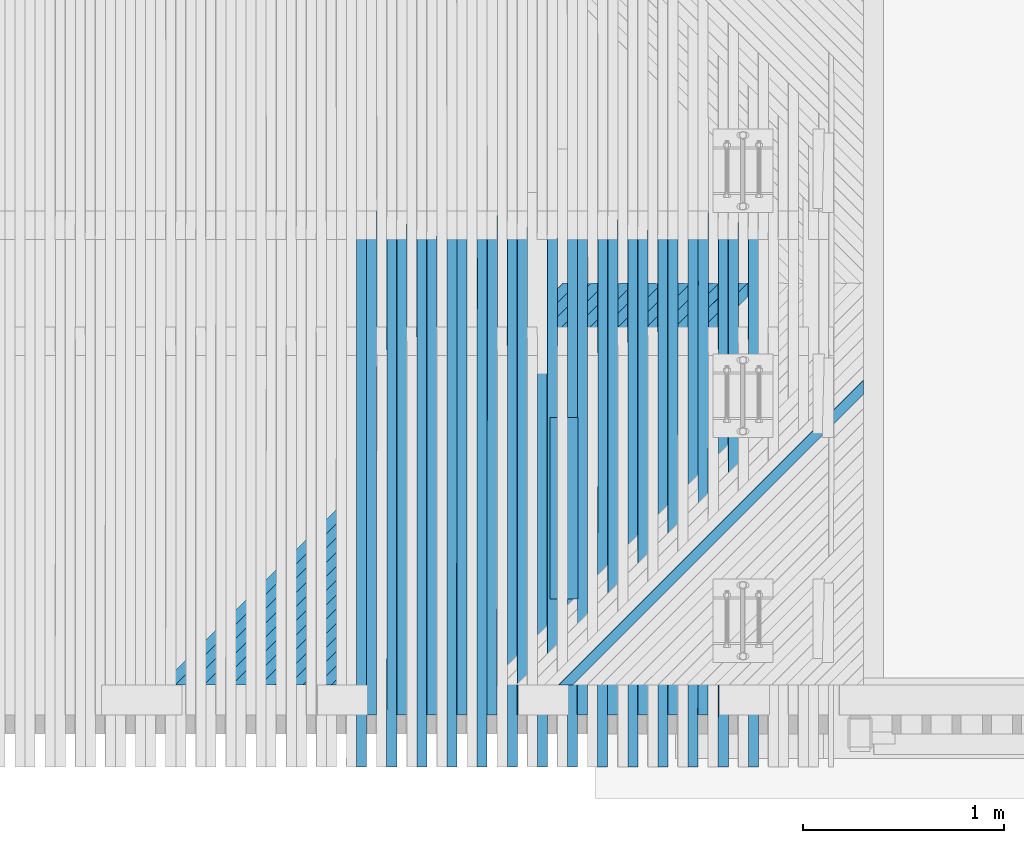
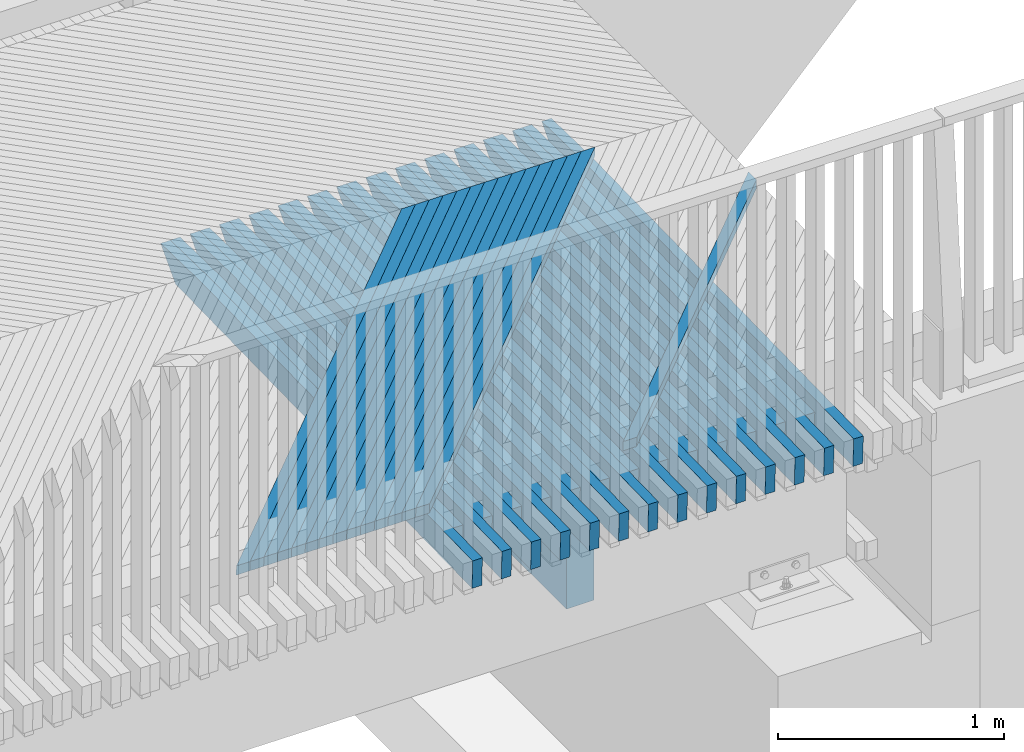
# One storey, part 38 of 47: 43 beams.
"""IFC2X3 building model written with IfcOpenShell, lengths in millimetres."""

from ifc_helpers import new_model, si_unit, frame, origin_with_axes, place, context, subcontext, project, spatial, faceted_brep, material, type_object, element, save


model = new_model("IFC2X3")

# Units and contexts
model_context = context("Model", 3, precision=1e-05, world=origin_with_axes())
body_context = subcontext(model_context, "Body", "Model", "MODEL_VIEW")
ifc_project = project(units=[si_unit("LENGTHUNIT", "METRE", prefix="MILLI"), si_unit("AREAUNIT", "SQUARE_METRE"), si_unit("VOLUMEUNIT", "CUBIC_METRE"), si_unit("MASSUNIT", "GRAM", prefix="KILO"), si_unit("TIMEUNIT", "SECOND"), si_unit("PLANEANGLEUNIT", "RADIAN"), si_unit("SOLIDANGLEUNIT", "STERADIAN"), si_unit("THERMODYNAMICTEMPERATUREUNIT", "DEGREE_CELSIUS"), si_unit("LUMINOUSINTENSITYUNIT", "LUMEN")], contexts=[model_context])

# Site, building, storey
site_placement = place(None, origin_with_axes())
site = spatial("IfcSite", under=ifc_project, at=site_placement, Name="Undefined", CompositionType="ELEMENT")
building_placement = place(site_placement, origin_with_axes())
building = spatial("IfcBuilding", under=site, at=building_placement, Name="Undefined", CompositionType="ELEMENT")
storey_placement = place(building_placement, origin_with_axes())
storey = spatial("IfcBuildingStorey", under=building, at=storey_placement, Name="Undefined", CompositionType="ELEMENT", Elevation=0.0)

# Beams
ifc_material = material(Name="TIMBER/Timber_Undefined")
beam_type_1 = type_object("IfcBeamType", Name="150*50", PredefinedType="NOTDEFINED")
beam_1_placement = place(storey_placement, frame((16051.1745116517, 59958.5561921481, 3034.14462053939), z_axis=(0.0133748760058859, -0.0199960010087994, 0.999710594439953), x_axis=(0.000267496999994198, 0.99980005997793, 0.0199942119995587)))
element("IfcBeam", 1, at=beam_1_placement, inside=storey, type_object=beam_type_1, material=ifc_material, Name="BEAM", ObjectType="150*50", context=body_context, shape_type="Brep", body=[
    faceted_brep([(6.18456397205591e-09, -24.9999999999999, -75.0000000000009), (-6.1918399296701e-09, -24.9999999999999, 74.9999999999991), (-6.19911588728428e-09, 25.0, 75.0), (6.18456397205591e-09, 24.9999999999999, -75.0), (2633.00494983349, 25.0000000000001, -75.0000000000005), (2633.00495050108, -24.9999999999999, -75.0000000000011), (2768.59248707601, -25.0, 60.5875366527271), (2408.42499905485, -25.0, 74.9999999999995), (2408.42501428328, 25.0000000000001, 74.9999999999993), (2768.5924870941, 25.0, 60.5875375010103)], [[[0, 1, 2, 3]], [[0, 3, 4, 5]], [[1, 0, 5, 6, 7]], [[2, 1, 7, 8]], [[4, 3, 2, 8, 9]], [[5, 4, 9, 6]], [[8, 7, 6, 9]]]),
])
beam_2_placement = place(storey_placement, frame((15951.1272743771, 60216.5046076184, 3040.6339626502), z_axis=(0.013208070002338, -0.0199960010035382, 0.999712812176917), x_axis=(0.000263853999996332, 0.999800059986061, 0.0199942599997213)))
element("IfcBeam", 2, at=beam_2_placement, inside=storey, type_object=beam_type_1, material=ifc_material, Name="BEAM", ObjectType="150*50", context=body_context, shape_type="Brep", body=[
    faceted_brep([(6.18456397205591e-09, -24.9999999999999, -75.0000000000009), (-6.1918399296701e-09, -24.9999999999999, 74.9999999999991), (-6.19911588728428e-09, 25.0, 75.0), (6.18456397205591e-09, 24.9999999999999, -75.0), (2375.00494220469, 24.9999999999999, -75.0000000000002), (2375.00494218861, -25.0, -75.0), (2510.59248711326, -25.0, 60.5875455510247), (2150.42518973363, -25.0, 75.0000000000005), (2150.42518840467, 25.0, 74.9999999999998), (2510.59248707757, 25.0, 60.5875454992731)], [[[0, 1, 2, 3]], [[0, 3, 4, 5]], [[1, 0, 5, 6, 7]], [[2, 1, 7, 8]], [[4, 3, 2, 8, 9]], [[5, 4, 9, 6]], [[8, 7, 6, 9]]]),
])
beam_3_placement = place(storey_placement, frame((15901.1589184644, 59958.5561921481, 3036.13254464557), z_axis=(0.0131257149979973, -0.0199960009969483, 0.999713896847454), x_axis=(0.000262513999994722, 0.999800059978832, 0.0199942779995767)))
element("IfcBeam", 3, at=beam_3_placement, inside=storey, type_object=beam_type_1, material=ifc_material, Name="BEAM", ObjectType="150*50", context=body_context, shape_type="Brep", body=[
    faceted_brep([(6.18456397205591e-09, -24.9999999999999, -75.0000000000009), (-6.1918399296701e-09, -24.9999999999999, 74.9999999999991), (-6.19911588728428e-09, 25.0, 75.0), (6.18456397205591e-09, 24.9999999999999, -75.0), (2633.00494983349, 25.0000000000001, -75.0000000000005), (2633.00495050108, -24.9999999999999, -75.0000000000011), (2768.59248707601, -25.0, 60.5875366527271), (2408.42499905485, -25.0, 74.9999999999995), (2408.42501428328, 25.0000000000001, 74.9999999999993), (2768.5924870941, 25.0, 60.5875375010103)], [[[0, 1, 2, 3]], [[0, 3, 4, 5]], [[1, 0, 5, 6, 7]], [[2, 1, 7, 8]], [[4, 3, 2, 8, 9]], [[5, 4, 9, 6]], [[8, 7, 6, 9]]]),
])
beam_4_placement = place(storey_placement, frame((15801.1100669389, 60216.5046076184, 3042.59695148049), z_axis=(0.0129589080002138, -0.0199960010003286, 0.999716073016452), x_axis=(0.000258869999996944, 0.999800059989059, 0.0199943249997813)))
element("IfcBeam", 4, at=beam_4_placement, inside=storey, type_object=beam_type_1, material=ifc_material, Name="BEAM", ObjectType="150*50", context=body_context, shape_type="Brep", body=[
    faceted_brep([(6.18456397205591e-09, -24.9999999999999, -75.0000000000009), (-6.1918399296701e-09, -24.9999999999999, 74.9999999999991), (-6.19911588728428e-09, 25.0, 75.0), (6.18456397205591e-09, 24.9999999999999, -75.0), (2375.00494220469, 24.9999999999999, -75.0000000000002), (2375.00494218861, -25.0, -75.0), (2510.59248711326, -25.0, 60.5875455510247), (2150.42518973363, -25.0, 75.0000000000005), (2150.42518840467, 25.0, 74.9999999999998), (2510.59248707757, 25.0, 60.5875454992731)], [[[0, 1, 2, 3]], [[0, 3, 4, 5]], [[1, 0, 5, 6, 7]], [[2, 1, 7, 8]], [[4, 3, 2, 8, 9]], [[5, 4, 9, 6]], [[8, 7, 6, 9]]]),
])
beam_5_placement = place(storey_placement, frame((15751.1428344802, 59958.5561921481, 3038.08307985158), z_axis=(0.012876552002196, -0.0199960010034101, 0.999717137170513), x_axis=(0.000257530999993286, 0.999800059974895, 0.0199943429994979)))
element("IfcBeam", 5, at=beam_5_placement, inside=storey, type_object=beam_type_1, material=ifc_material, Name="BEAM", ObjectType="150*50", context=body_context, shape_type="Brep", body=[
    faceted_brep([(6.18456397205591e-09, -24.9999999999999, -75.0000000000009), (-6.1918399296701e-09, -24.9999999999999, 74.9999999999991), (-6.19911588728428e-09, 25.0, 75.0), (6.18456397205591e-09, 24.9999999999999, -75.0), (2633.00494983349, 25.0000000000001, -75.0000000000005), (2633.00495050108, -24.9999999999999, -75.0000000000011), (2768.59248707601, -25.0, 60.5875366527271), (2408.42499905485, -25.0, 74.9999999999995), (2408.42501428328, 25.0000000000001, 74.9999999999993), (2768.5924870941, 25.0, 60.5875375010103)], [[[0, 1, 2, 3]], [[0, 3, 4, 5]], [[1, 0, 5, 6, 7]], [[2, 1, 7, 8]], [[4, 3, 2, 8, 9]], [[5, 4, 9, 6]], [[8, 7, 6, 9]]]),
])
beam_6_placement = place(storey_placement, frame((15651.0923749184, 60216.5046076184, 3044.52255100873), z_axis=(0.012709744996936, -0.0199960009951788, 0.999719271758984), x_axis=(0.000253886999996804, 0.999800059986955, 0.0199943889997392)))
element("IfcBeam", 6, at=beam_6_placement, inside=storey, type_object=beam_type_1, material=ifc_material, Name="BEAM", ObjectType="150*50", context=body_context, shape_type="Brep", body=[
    faceted_brep([(6.18456397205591e-09, -24.9999999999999, -75.0000000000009), (-6.1918399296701e-09, -24.9999999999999, 74.9999999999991), (-6.19911588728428e-09, 25.0, 75.0), (6.18456397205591e-09, 24.9999999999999, -75.0), (2375.00494220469, 24.9999999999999, -75.0000000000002), (2375.00494218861, -25.0, -75.0), (2510.59248711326, -25.0, 60.5875455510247), (2150.42518973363, -25.0, 75.0000000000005), (2150.42518840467, 25.0, 74.9999999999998), (2510.59248707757, 25.0, 60.5875454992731)], [[[0, 1, 2, 3]], [[0, 3, 4, 5]], [[1, 0, 5, 6, 7]], [[2, 1, 7, 8]], [[4, 3, 2, 8, 9]], [[5, 4, 9, 6]], [[8, 7, 6, 9]]]),
])
beam_7_placement = place(storey_placement, frame((15601.1262690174, 59958.5561921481, 3039.99622603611), z_axis=(0.012627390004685, -0.019996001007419, 0.999720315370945), x_axis=(0.000252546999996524, 0.999800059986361, 0.0199944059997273)))
element("IfcBeam", 7, at=beam_7_placement, inside=storey, type_object=beam_type_1, material=ifc_material, Name="BEAM", ObjectType="150*50", context=body_context, shape_type="Brep", body=[
    faceted_brep([(6.18456397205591e-09, -24.9999999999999, -75.0000000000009), (-6.1918399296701e-09, -24.9999999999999, 74.9999999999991), (-6.19911588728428e-09, 25.0, 75.0), (6.18456397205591e-09, 24.9999999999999, -75.0), (2633.00494983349, 25.0000000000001, -75.0000000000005), (2633.00495050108, -24.9999999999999, -75.0000000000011), (2768.59248707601, -25.0, 60.5875366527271), (2408.42499905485, -25.0, 74.9999999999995), (2408.42501428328, 25.0000000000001, 74.9999999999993), (2768.5924870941, 25.0, 60.5875375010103)], [[[0, 1, 2, 3]], [[0, 3, 4, 5]], [[1, 0, 5, 6, 7]], [[2, 1, 7, 8]], [[4, 3, 2, 8, 9]], [[5, 4, 9, 6]], [[8, 7, 6, 9]]]),
])
beam_8_placement = place(storey_placement, frame((15501.0742076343, 60216.5046076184, 3046.41076111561), z_axis=(0.0124605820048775, -0.0199960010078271, 0.999722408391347), x_axis=(0.000248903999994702, 0.999800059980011, 0.0199944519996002)))
element("IfcBeam", 8, at=beam_8_placement, inside=storey, type_object=beam_type_1, material=ifc_material, Name="BEAM", ObjectType="150*50", context=body_context, shape_type="Brep", body=[
    faceted_brep([(6.18456397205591e-09, -24.9999999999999, -75.0000000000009), (-6.1918399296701e-09, -24.9999999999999, 74.9999999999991), (-6.19911588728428e-09, 25.0, 75.0), (6.18456397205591e-09, 24.9999999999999, -75.0), (2375.00494220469, 24.9999999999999, -75.0000000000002), (2375.00494218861, -25.0, -75.0), (2510.59248711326, -25.0, 60.5875455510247), (2150.42518973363, -25.0, 75.0000000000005), (2150.42518840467, 25.0, 74.9999999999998), (2510.59248707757, 25.0, 60.5875454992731)], [[[0, 1, 2, 3]], [[0, 3, 4, 5]], [[1, 0, 5, 6, 7]], [[2, 1, 7, 8]], [[4, 3, 2, 8, 9]], [[5, 4, 9, 6]], [[8, 7, 6, 9]]]),
])
beam_9_placement = place(storey_placement, frame((15451.1092313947, 59958.5561921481, 3041.87198308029), z_axis=(0.0123782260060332, -0.0199960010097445, 0.99972343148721), x_axis=(0.000247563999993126, 0.999800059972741, 0.0199944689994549)))
element("IfcBeam", 9, at=beam_9_placement, inside=storey, type_object=beam_type_1, material=ifc_material, Name="BEAM", ObjectType="150*50", context=body_context, shape_type="Brep", body=[
    faceted_brep([(6.18456397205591e-09, -24.9999999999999, -75.0000000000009), (-6.1918399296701e-09, -24.9999999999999, 74.9999999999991), (-6.19911588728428e-09, 25.0, 75.0), (6.18456397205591e-09, 24.9999999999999, -75.0), (2633.00494983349, 25.0000000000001, -75.0000000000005), (2633.00495050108, -24.9999999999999, -75.0000000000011), (2768.59248707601, -25.0, 60.5875366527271), (2408.42499905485, -25.0, 74.9999999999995), (2408.42501428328, 25.0000000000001, 74.9999999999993), (2768.5924870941, 25.0, 60.5875375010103)], [[[0, 1, 2, 3]], [[0, 3, 4, 5]], [[1, 0, 5, 6, 7]], [[2, 1, 7, 8]], [[4, 3, 2, 8, 9]], [[5, 4, 9, 6]], [[8, 7, 6, 9]]]),
])
beam_10_placement = place(storey_placement, frame((15351.0555744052, 60216.5046076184, 3048.26158168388), z_axis=(0.0122114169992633, -0.0199960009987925, 0.999725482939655), x_axis=(0.000243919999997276, 0.999800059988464, 0.0199945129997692)))
element("IfcBeam", 10, at=beam_10_placement, inside=storey, type_object=beam_type_1, material=ifc_material, Name="BEAM", ObjectType="150*50", context=body_context, shape_type="Brep", body=[
    faceted_brep([(6.18456397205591e-09, -24.9999999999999, -75.0000000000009), (-6.1918399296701e-09, -24.9999999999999, 74.9999999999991), (-6.19911588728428e-09, 25.0, 75.0), (6.18456397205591e-09, 24.9999999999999, -75.0), (2375.00494220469, 24.9999999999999, -75.0000000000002), (2375.00494218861, -25.0, -75.0), (2510.59248711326, -25.0, 60.5875455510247), (2150.42518973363, -25.0, 75.0000000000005), (2150.42518840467, 25.0, 74.9999999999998), (2510.59248707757, 25.0, 60.5875454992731)], [[[0, 1, 2, 3]], [[0, 3, 4, 5]], [[1, 0, 5, 6, 7]], [[2, 1, 7, 8]], [[4, 3, 2, 8, 9]], [[5, 4, 9, 6]], [[8, 7, 6, 9]]]),
])
beam_11_placement = place(storey_placement, frame((15301.0917309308, 59958.5561921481, 3043.71035086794), z_axis=(0.0121290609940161, -0.0199960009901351, 0.999726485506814), x_axis=(0.000242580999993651, 0.999800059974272, 0.0199945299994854)))
element("IfcBeam", 11, at=beam_11_placement, inside=storey, type_object=beam_type_1, material=ifc_material, Name="BEAM", ObjectType="150*50", context=body_context, shape_type="Brep", body=[
    faceted_brep([(6.18456397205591e-09, -24.9999999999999, -75.0000000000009), (-6.1918399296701e-09, -24.9999999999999, 74.9999999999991), (-6.19911588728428e-09, 25.0, 75.0), (6.18456397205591e-09, 24.9999999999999, -75.0), (2633.00494983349, 25.0000000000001, -75.0000000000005), (2633.00495050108, -24.9999999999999, -75.0000000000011), (2768.59248707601, -25.0, 60.5875366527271), (2408.42499905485, -25.0, 74.9999999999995), (2408.42501428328, 25.0000000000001, 74.9999999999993), (2768.5924870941, 25.0, 60.5875375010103)], [[[0, 1, 2, 3]], [[0, 3, 4, 5]], [[1, 0, 5, 6, 7]], [[2, 1, 7, 8]], [[4, 3, 2, 8, 9]], [[5, 4, 9, 6]], [[8, 7, 6, 9]]]),
])
beam_12_placement = place(storey_placement, frame((15201.0364845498, 60216.5046076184, 3050.0750125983), z_axis=(0.0119622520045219, -0.0199960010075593, 0.999728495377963), x_axis=(0.000238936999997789, 0.999800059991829, 0.0199945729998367)))
element("IfcBeam", 12, at=beam_12_placement, inside=storey, type_object=beam_type_1, material=ifc_material, Name="BEAM", ObjectType="150*50", context=body_context, shape_type="Brep", body=[
    faceted_brep([(6.18456397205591e-09, -24.9999999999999, -75.0000000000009), (-6.1918399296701e-09, -24.9999999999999, 74.9999999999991), (-6.19911588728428e-09, 25.0, 75.0), (6.18456397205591e-09, 24.9999999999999, -75.0), (2375.00494220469, 24.9999999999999, -75.0000000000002), (2375.00494218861, -25.0, -75.0), (2510.59248711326, -25.0, 60.5875455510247), (2150.42518973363, -25.0, 75.0000000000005), (2150.42518840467, 25.0, 74.9999999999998), (2510.59248707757, 25.0, 60.5875454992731)], [[[0, 1, 2, 3]], [[0, 3, 4, 5]], [[1, 0, 5, 6, 7]], [[2, 1, 7, 8]], [[4, 3, 2, 8, 9]], [[5, 4, 9, 6]], [[8, 7, 6, 9]]]),
])
beam_13_placement = place(storey_placement, frame((15151.0737769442, 59958.5561921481, 3045.51132928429), z_axis=(0.0118798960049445, -0.0199960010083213, 0.999729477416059), x_axis=(0.000237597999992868, 0.999800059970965, 0.0199945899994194)))
element("IfcBeam", 13, at=beam_13_placement, inside=storey, type_object=beam_type_1, material=ifc_material, Name="BEAM", ObjectType="150*50", context=body_context, shape_type="Brep", body=[
    faceted_brep([(6.18456397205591e-09, -24.9999999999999, -75.0000000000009), (-6.1918399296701e-09, -24.9999999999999, 74.9999999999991), (-6.19911588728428e-09, 25.0, 75.0), (6.18456397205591e-09, 24.9999999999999, -75.0), (2633.00494983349, 25.0000000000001, -75.0000000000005), (2633.00495050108, -24.9999999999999, -75.0000000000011), (2768.59248707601, -25.0, 60.5875366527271), (2408.42499905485, -25.0, 74.9999999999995), (2408.42501428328, 25.0000000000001, 74.9999999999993), (2768.5924870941, 25.0, 60.5875375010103)], [[[0, 1, 2, 3]], [[0, 3, 4, 5]], [[1, 0, 5, 6, 7]], [[2, 1, 7, 8]], [[4, 3, 2, 8, 9]], [[5, 4, 9, 6]], [[8, 7, 6, 9]]]),
])
beam_14_placement = place(storey_placement, frame((15051.016947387, 60216.5046076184, 3051.85105374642), z_axis=(0.011713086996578, -0.0199960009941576, 0.999731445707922), x_axis=(0.000233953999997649, 0.999800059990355, 0.0199946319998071)))
element("IfcBeam", 14, at=beam_14_placement, inside=storey, type_object=beam_type_1, material=ifc_material, Name="BEAM", ObjectType="150*50", context=body_context, shape_type="Brep", body=[
    faceted_brep([(6.18456397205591e-09, -24.9999999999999, -75.0000000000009), (-6.1918399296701e-09, -24.9999999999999, 74.9999999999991), (-6.19911588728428e-09, 25.0, 75.0), (6.18456397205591e-09, 24.9999999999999, -75.0), (2375.00494220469, 24.9999999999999, -75.0000000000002), (2375.00494218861, -25.0, -75.0), (2510.59248711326, -25.0, 60.5875455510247), (2150.42518973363, -25.0, 75.0000000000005), (2150.42518840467, 25.0, 74.9999999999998), (2510.59248707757, 25.0, 60.5875454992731)], [[[0, 1, 2, 3]], [[0, 3, 4, 5]], [[1, 0, 5, 6, 7]], [[2, 1, 7, 8]], [[4, 3, 2, 8, 9]], [[5, 4, 9, 6]], [[8, 7, 6, 9]]]),
])
beam_15_placement = place(storey_placement, frame((15001.0553787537, 59958.5561921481, 3047.27491821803), z_axis=(0.0116307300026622, -0.0199960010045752, 0.99973240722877), x_axis=(0.000232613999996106, 0.999800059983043, 0.0199946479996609)))
element("IfcBeam", 15, at=beam_15_placement, inside=storey, type_object=beam_type_1, material=ifc_material, Name="BEAM", ObjectType="150*50", context=body_context, shape_type="Brep", body=[
    faceted_brep([(6.18456397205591e-09, -24.9999999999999, -75.0000000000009), (-6.1918399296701e-09, -24.9999999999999, 74.9999999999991), (-6.19911588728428e-09, 25.0, 75.0), (6.18456397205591e-09, 24.9999999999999, -75.0), (2633.00494983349, 25.0000000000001, -75.0000000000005), (2633.00495050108, -24.9999999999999, -75.0000000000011), (2768.59248707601, -25.0, 60.5875366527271), (2408.42499905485, -25.0, 74.9999999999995), (2408.42501428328, 25.0000000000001, 74.9999999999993), (2768.5924870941, 25.0, 60.5875375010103)], [[[0, 1, 2, 3]], [[0, 3, 4, 5]], [[1, 0, 5, 6, 7]], [[2, 1, 7, 8]], [[4, 3, 2, 8, 9]], [[5, 4, 9, 6]], [[8, 7, 6, 9]]]),
])
beam_16_placement = place(storey_placement, frame((14900.9969722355, 60216.5046076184, 3053.58970501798), z_axis=(0.0114639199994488, -0.0199960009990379, 0.999734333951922), x_axis=(0.000228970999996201, 0.999800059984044, 0.0199946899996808)))
element("IfcBeam", 16, at=beam_16_placement, inside=storey, type_object=beam_type_1, material=ifc_material, Name="BEAM", ObjectType="150*50", context=body_context, shape_type="Brep", body=[
    faceted_brep([(6.18456397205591e-09, -24.9999999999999, -75.0000000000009), (-6.1918399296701e-09, -24.9999999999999, 74.9999999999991), (-6.19911588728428e-09, 25.0, 75.0), (6.18456397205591e-09, 24.9999999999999, -75.0), (2375.00494220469, 24.9999999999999, -75.0000000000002), (2375.00494218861, -25.0, -75.0), (2510.59248711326, -25.0, 60.5875455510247), (2150.42518973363, -25.0, 75.0000000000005), (2150.42518840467, 25.0, 74.9999999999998), (2510.59248707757, 25.0, 60.5875454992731)], [[[0, 1, 2, 3]], [[0, 3, 4, 5]], [[1, 0, 5, 6, 7]], [[2, 1, 7, 8]], [[4, 3, 2, 8, 9]], [[5, 4, 9, 6]], [[8, 7, 6, 9]]]),
])
beam_17_placement = place(storey_placement, frame((14851.036545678, 59958.5561921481, 3049.00111755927), z_axis=(0.0113815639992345, -0.0199960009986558, 0.999735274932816), x_axis=(0.000227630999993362, 0.999800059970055, 0.0199947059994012)))
element("IfcBeam", 17, at=beam_17_placement, inside=storey, type_object=beam_type_1, material=ifc_material, Name="BEAM", ObjectType="150*50", context=body_context, shape_type="Brep", body=[
    faceted_brep([(6.18456397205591e-09, -24.9999999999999, -75.0000000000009), (-6.1918399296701e-09, -24.9999999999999, 74.9999999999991), (-6.19911588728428e-09, 25.0, 75.0), (6.18456397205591e-09, 24.9999999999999, -75.0), (2633.00494983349, 25.0000000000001, -75.0000000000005), (2633.00495050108, -24.9999999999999, -75.0000000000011), (2768.59248707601, -25.0, 60.5875366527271), (2408.42499905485, -25.0, 74.9999999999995), (2408.42501428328, 25.0000000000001, 74.9999999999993), (2768.5924870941, 25.0, 60.5875375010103)], [[[0, 1, 2, 3]], [[0, 3, 4, 5]], [[1, 0, 5, 6, 7]], [[2, 1, 7, 8]], [[4, 3, 2, 8, 9]], [[5, 4, 9, 6]], [[8, 7, 6, 9]]]),
])
beam_18_placement = place(storey_placement, frame((14750.9765684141, 60216.5046076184, 3055.29096630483), z_axis=(0.0112147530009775, -0.0199960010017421, 0.999737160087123), x_axis=(0.000223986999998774, 0.999800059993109, 0.0199947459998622)))
element("IfcBeam", 18, at=beam_18_placement, inside=storey, type_object=beam_type_1, material=ifc_material, Name="BEAM", ObjectType="150*50", context=body_context, shape_type="Brep", body=[
    faceted_brep([(6.18456397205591e-09, -24.9999999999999, -75.0000000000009), (-6.1918399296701e-09, -24.9999999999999, 74.9999999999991), (-6.19911588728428e-09, 25.0, 75.0), (6.18456397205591e-09, 24.9999999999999, -75.0), (2375.00494220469, 24.9999999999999, -75.0000000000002), (2375.00494218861, -25.0, -75.0), (2510.59248711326, -25.0, 60.5875455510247), (2150.42518973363, -25.0, 75.0000000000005), (2150.42518840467, 25.0, 74.9999999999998), (2510.59248707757, 25.0, 60.5875454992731)], [[[0, 1, 2, 3]], [[0, 3, 4, 5]], [[1, 0, 5, 6, 7]], [[2, 1, 7, 8]], [[4, 3, 2, 8, 9]], [[5, 4, 9, 6]], [[8, 7, 6, 9]]]),
])
beam_19_placement = place(storey_placement, frame((14701.0172870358, 59958.5561921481, 3050.6899272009), z_axis=(0.011132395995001, -0.0199960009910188, 0.99973808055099), x_axis=(0.000222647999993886, 0.999800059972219, 0.0199947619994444)))
element("IfcBeam", 19, at=beam_19_placement, inside=storey, type_object=beam_type_1, material=ifc_material, Name="BEAM", ObjectType="150*50", context=body_context, shape_type="Brep", body=[
    faceted_brep([(6.18456397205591e-09, -24.9999999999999, -75.0000000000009), (-6.1918399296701e-09, -24.9999999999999, 74.9999999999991), (-6.19911588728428e-09, 25.0, 75.0), (6.18456397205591e-09, 24.9999999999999, -75.0), (2633.00494983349, 25.0000000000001, -75.0000000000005), (2633.00495050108, -24.9999999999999, -75.0000000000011), (2768.59248707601, -25.0, 60.5875366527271), (2408.42499905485, -25.0, 74.9999999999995), (2408.42501428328, 25.0000000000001, 74.9999999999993), (2768.5924870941, 25.0, 60.5875375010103)], [[[0, 1, 2, 3]], [[0, 3, 4, 5]], [[1, 0, 5, 6, 7]], [[2, 1, 7, 8]], [[4, 3, 2, 8, 9]], [[5, 4, 9, 6]], [[8, 7, 6, 9]]]),
])
beam_20_placement = place(storey_placement, frame((14600.9557452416, 60216.5046076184, 3056.95483750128), z_axis=(0.0109655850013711, -0.0199960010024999, 0.999739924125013), x_axis=(0.000219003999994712, 0.999800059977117, 0.0199948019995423)))
element("IfcBeam", 20, at=beam_20_placement, inside=storey, type_object=beam_type_1, material=ifc_material, Name="BEAM", ObjectType="150*50", context=body_context, shape_type="Brep", body=[
    faceted_brep([(6.18456397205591e-09, -24.9999999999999, -75.0000000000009), (-6.1918399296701e-09, -24.9999999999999, 74.9999999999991), (-6.19911588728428e-09, 25.0, 75.0), (6.18456397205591e-09, 24.9999999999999, -75.0), (2375.00494220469, 24.9999999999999, -75.0000000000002), (2375.00494218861, -25.0, -75.0), (2510.59248711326, -25.0, 60.5875455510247), (2150.42518973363, -25.0, 75.0000000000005), (2150.42518840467, 25.0, 74.9999999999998), (2510.59248707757, 25.0, 60.5875454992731)], [[[0, 1, 2, 3]], [[0, 3, 4, 5]], [[1, 0, 5, 6, 7]], [[2, 1, 7, 8]], [[4, 3, 2, 8, 9]], [[5, 4, 9, 6]], [[8, 7, 6, 9]]]),
])
beam_21_placement = place(storey_placement, frame((14550.9976121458, 59958.5561921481, 3052.34134703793), z_axis=(0.0108832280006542, -0.0199960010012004, 0.999740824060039), x_axis=(0.000217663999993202, 0.999800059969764, 0.0199948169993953)))
element("IfcBeam", 21, at=beam_21_placement, inside=storey, type_object=beam_type_1, material=ifc_material, Name="BEAM", ObjectType="150*50", context=body_context, shape_type="Brep", body=[
    faceted_brep([(6.18456397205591e-09, -24.9999999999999, -75.0000000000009), (-6.1918399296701e-09, -24.9999999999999, 74.9999999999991), (-6.19911588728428e-09, 25.0, 75.0), (6.18456397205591e-09, 24.9999999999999, -75.0), (2633.00494983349, 25.0000000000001, -75.0000000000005), (2633.00495050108, -24.9999999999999, -75.0000000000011), (2768.59248707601, -25.0, 60.5875366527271), (2408.42499905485, -25.0, 74.9999999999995), (2408.42501428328, 25.0000000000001, 74.9999999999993), (2768.5924870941, 25.0, 60.5875375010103)], [[[0, 1, 2, 3]], [[0, 3, 4, 5]], [[1, 0, 5, 6, 7]], [[2, 1, 7, 8]], [[4, 3, 2, 8, 9]], [[5, 4, 9, 6]], [[8, 7, 6, 9]]]),
])
beam_22_placement = place(storey_placement, frame((14450.9345120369, 60216.5046076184, 3058.58131850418), z_axis=(0.0107164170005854, -0.0199960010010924, 0.999742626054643), x_axis=(0.00021401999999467, 0.999800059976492, 0.0199948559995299)))
element("IfcBeam", 22, at=beam_22_placement, inside=storey, type_object=beam_type_1, material=ifc_material, Name="BEAM", ObjectType="150*50", context=body_context, shape_type="Brep", body=[
    faceted_brep([(6.18456397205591e-09, -24.9999999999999, -75.0000000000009), (-6.1918399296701e-09, -24.9999999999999, 74.9999999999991), (-6.19911588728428e-09, 25.0, 75.0), (6.18456397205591e-09, 24.9999999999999, -75.0), (2375.00494220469, 24.9999999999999, -75.0000000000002), (2375.00494218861, -25.0, -75.0), (2510.59248711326, -25.0, 60.5875455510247), (2150.42518973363, -25.0, 75.0000000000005), (2150.42518840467, 25.0, 74.9999999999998), (2510.59248707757, 25.0, 60.5875454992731)], [[[0, 1, 2, 3]], [[0, 3, 4, 5]], [[1, 0, 5, 6, 7]], [[2, 1, 7, 8]], [[4, 3, 2, 8, 9]], [[5, 4, 9, 6]], [[8, 7, 6, 9]]]),
])
beam_23_placement = place(storey_placement, frame((14400.9775303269, 59958.5561921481, 3053.95537696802), z_axis=(0.0106340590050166, -0.0199960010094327, 0.999743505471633), x_axis=(0.000212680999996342, 0.999800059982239, 0.0199948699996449)))
element("IfcBeam", 23, at=beam_23_placement, inside=storey, type_object=beam_type_1, material=ifc_material, Name="BEAM", ObjectType="150*50", context=body_context, shape_type="Brep", body=[
    faceted_brep([(6.18456397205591e-09, -24.9999999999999, -75.0000000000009), (-6.1918399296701e-09, -24.9999999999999, 74.9999999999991), (-6.19911588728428e-09, 25.0, 75.0), (6.18456397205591e-09, 24.9999999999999, -75.0), (2633.00494983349, 25.0000000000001, -75.0000000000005), (2633.00495050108, -24.9999999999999, -75.0000000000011), (2768.59248707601, -25.0, 60.5875366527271), (2408.42499905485, -25.0, 74.9999999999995), (2408.42501428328, 25.0000000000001, 74.9999999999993), (2768.5924870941, 25.0, 60.5875375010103)], [[[0, 1, 2, 3]], [[0, 3, 4, 5]], [[1, 0, 5, 6, 7]], [[2, 1, 7, 8]], [[4, 3, 2, 8, 9]], [[5, 4, 9, 6]], [[8, 7, 6, 9]]]),
])
beam_24_placement = place(storey_placement, frame((14300.9128781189, 60216.5046076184, 3060.17040921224), z_axis=(0.0104672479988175, -0.019996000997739, 0.999745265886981), x_axis=(0.000209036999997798, 0.999800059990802, 0.019994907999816)))
element("IfcBeam", 24, at=beam_24_placement, inside=storey, type_object=beam_type_1, material=ifc_material, Name="BEAM", ObjectType="150*50", context=body_context, shape_type="Brep", body=[
    faceted_brep([(6.18456397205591e-09, -24.9999999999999, -75.0000000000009), (-6.1918399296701e-09, -24.9999999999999, 74.9999999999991), (-6.19911588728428e-09, 25.0, 75.0), (6.18456397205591e-09, 24.9999999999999, -75.0), (2375.00494220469, 24.9999999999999, -75.0000000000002), (2375.00494218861, -25.0, -75.0), (2510.59248711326, -25.0, 60.5875455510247), (2150.42518973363, -25.0, 75.0000000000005), (2150.42518840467, 25.0, 74.9999999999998), (2510.59248707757, 25.0, 60.5875454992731)], [[[0, 1, 2, 3]], [[0, 3, 4, 5]], [[1, 0, 5, 6, 7]], [[2, 1, 7, 8]], [[4, 3, 2, 8, 9]], [[5, 4, 9, 6]], [[8, 7, 6, 9]]]),
])
beam_25_placement = place(storey_placement, frame((14250.9570508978, 59958.5561921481, 3055.53201689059), z_axis=(0.0103848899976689, -0.0199960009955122, 0.999746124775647), x_axis=(0.000207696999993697, 0.999800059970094, 0.0199949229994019)))
element("IfcBeam", 25, at=beam_25_placement, inside=storey, type_object=beam_type_1, material=ifc_material, Name="BEAM", ObjectType="150*50", context=body_context, shape_type="Brep", body=[
    faceted_brep([(6.18456397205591e-09, -24.9999999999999, -75.0000000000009), (-6.1918399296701e-09, -24.9999999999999, 74.9999999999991), (-6.19911588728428e-09, 25.0, 75.0), (6.18456397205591e-09, 24.9999999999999, -75.0), (2633.00494983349, 25.0000000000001, -75.0000000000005), (2633.00495050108, -24.9999999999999, -75.0000000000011), (2768.59248707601, -25.0, 60.5875366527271), (2408.42499905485, -25.0, 74.9999999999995), (2408.42501428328, 25.0000000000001, 74.9999999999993), (2768.5924870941, 25.0, 60.5875375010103)], [[[0, 1, 2, 3]], [[0, 3, 4, 5]], [[1, 0, 5, 6, 7]], [[2, 1, 7, 8]], [[4, 3, 2, 8, 9]], [[5, 4, 9, 6]], [[8, 7, 6, 9]]]),
])
beam_26_placement = place(storey_placement, frame((14150.8908528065, 60216.5046076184, 3061.72210952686), z_axis=(0.0102180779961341, -0.0199960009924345, 0.999747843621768), x_axis=(0.000204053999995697, 0.999800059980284, 0.0199949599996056)))
element("IfcBeam", 26, at=beam_26_placement, inside=storey, type_object=beam_type_1, material=ifc_material, Name="BEAM", ObjectType="150*50", context=body_context, shape_type="Brep", body=[
    faceted_brep([(6.18456397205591e-09, -24.9999999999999, -75.0000000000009), (-6.1918399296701e-09, -24.9999999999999, 74.9999999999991), (-6.19911588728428e-09, 25.0, 75.0), (6.18456397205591e-09, 24.9999999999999, -75.0), (2375.00494220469, 24.9999999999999, -75.0000000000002), (2375.00494218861, -25.0, -75.0), (2510.59248711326, -25.0, 60.5875455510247), (2150.42518973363, -25.0, 75.0000000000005), (2150.42518840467, 25.0, 74.9999999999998), (2510.59248707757, 25.0, 60.5875454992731)], [[[0, 1, 2, 3]], [[0, 3, 4, 5]], [[1, 0, 5, 6, 7]], [[2, 1, 7, 8]], [[4, 3, 2, 8, 9]], [[5, 4, 9, 6]], [[8, 7, 6, 9]]]),
])
beam_27_placement = place(storey_placement, frame((14100.9361831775, 59958.5561921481, 3057.07126670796), z_axis=(0.0101357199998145, -0.0199960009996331, 0.999748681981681), x_axis=(0.000202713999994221, 0.99980005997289, 0.0199949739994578)))
element("IfcBeam", 27, at=beam_27_placement, inside=storey, type_object=beam_type_1, material=ifc_material, Name="BEAM", ObjectType="150*50", context=body_context, shape_type="Brep", body=[
    faceted_brep([(6.18456397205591e-09, -24.9999999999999, -75.0000000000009), (-6.1918399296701e-09, -24.9999999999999, 74.9999999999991), (-6.19911588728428e-09, 25.0, 75.0), (6.18456397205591e-09, 24.9999999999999, -75.0), (2633.00494983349, 25.0000000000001, -75.0000000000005), (2633.00495050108, -24.9999999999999, -75.0000000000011), (2768.59248707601, -25.0, 60.5875366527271), (2408.42499905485, -25.0, 74.9999999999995), (2408.42501428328, 25.0000000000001, 74.9999999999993), (2768.5924870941, 25.0, 60.5875375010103)], [[[0, 1, 2, 3]], [[0, 3, 4, 5]], [[1, 0, 5, 6, 7]], [[2, 1, 7, 8]], [[4, 3, 2, 8, 9]], [[5, 4, 9, 6]], [[8, 7, 6, 9]]]),
])
beam_type_2 = type_object("IfcBeamType", Name="945*140", PredefinedType="NOTDEFINED")
beam_28_placement = place(storey_placement, frame((15109.0, 61697.5, 2500.4679002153), z_axis=(0.0, 0.0, 1.0), x_axis=(0.0, -1.0, 0.0)))
element("IfcBeam", 28, at=beam_28_placement, inside=storey, type_object=beam_type_2, material=ifc_material, Name="PALKKI", ObjectType="945*140", context=body_context, shape_type="Brep", body=[
    faceted_brep([(0.0, 70.0, -472.5), (0.0, 70.0, 472.5), (905.0, 70.0, 472.5), (905.0, 70.0, -472.5), (0.0, -70.0, 472.5), (905.0, -70.0, 472.5), (0.0, -70.0, -472.5), (905.0, -70.0, -472.5)], [[[0, 1, 2, 3]], [[1, 4, 5, 2]], [[4, 6, 7, 5]], [[6, 0, 3, 7]], [[5, 7, 3, 2]], [[6, 4, 1, 0]]]),
])
beam_type_3 = type_object("IfcBeamType", Name="50*50", PredefinedType="NOTDEFINED")
beam_29_placement = place(storey_placement, frame((17117.4357443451, 62364.5001003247, 3167.08782657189), z_axis=(0.706838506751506, -0.706981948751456, -0.0235764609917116), x_axis=(-0.707249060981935, -0.706948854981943, -0.00469916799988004)))
element("IfcBeam", 29, at=beam_29_placement, inside=storey, type_object=beam_type_3, material=ifc_material, Name="BEAM", ObjectType="50*50", context=body_context, shape_type="Brep", body=[
    faceted_brep([(2802.92643296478, -25.0000000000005, 25.0000000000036), (2852.92877373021, -25.0000000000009, -24.9999999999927), (2854.34301907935, 24.9999999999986, -24.9999999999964), (2804.3406783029, 24.9999999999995, 25.0000000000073), (706.160221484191, 25.0000000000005, -25.0000000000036), (756.131196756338, 25.0000000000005, 25.0000000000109), (757.074649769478, -24.9999999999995, 25.0000000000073), (707.103674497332, -24.9999999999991, -25.0)], [[[0, 1, 2, 3]], [[3, 2, 4, 5]], [[0, 3, 5, 6]], [[1, 0, 6, 7]], [[2, 1, 7, 4]], [[6, 5, 4, 7]]]),
])
for number, where, z_axis, x_axis, name in (
    (30, (16056.6802712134, 62364.5001003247, 3182.21745282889), (0.706878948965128, -0.706981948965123, -0.0223310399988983), (-0.707239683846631, -0.706948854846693, -0.00594526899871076), "BEAM"),
    (31, (15985.962313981, 62364.5001003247, 3183.15964251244), (0.706881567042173, -0.706981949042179, -0.0222480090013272), (-0.707238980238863, -0.706948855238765, -0.00602834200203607), "BEAM"),
    (32, (15915.2442465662, 62364.5001003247, 3184.09352561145), (0.706884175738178, -0.706981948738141, -0.0221649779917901), (-0.707238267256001, -0.706948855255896, -0.00611141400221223), "BEAM"),
    (33, (15844.5260699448, 62364.5001003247, 3185.01910211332), (0.706886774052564, -0.706981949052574, -0.0220819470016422), (-0.707237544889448, -0.706948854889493, -0.00619448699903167), "BEAM"),
    (34, (15773.8077850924, 62364.5001003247, 3185.93637200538), (0.706889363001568, -0.70698194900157, -0.021998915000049), (-0.707236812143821, -0.706948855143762, -0.00627756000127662), "BEAM"),
    (35, (15703.0893929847, 62364.5001003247, 3186.8453352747), (0.70689194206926, -0.706981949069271, -0.0219158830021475), (-0.707236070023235, -0.706948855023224, -0.006360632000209), "BEAM"),
    (36, (15632.3708945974, 62364.5001003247, 3187.74599190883), (0.706894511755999, -0.706981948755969, -0.021832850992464), (-0.707235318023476, -0.706948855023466, -0.00644370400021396), "BEAM"),
    (37, (15561.6522909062, 62364.5001003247, 3188.6383418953), (0.706897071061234, -0.706981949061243, -0.0217498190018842), (-0.707234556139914, -0.706948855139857, -0.00652677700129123), "BEAM"),
    (38, (15490.9335828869, 62364.5001003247, 3189.52238522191), (0.706899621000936, -0.706981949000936, -0.0216667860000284), (-0.707233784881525, -0.706948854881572, -0.00660984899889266), "BEAM"),
    (39, (15420.2147715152, 62364.5001003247, 3190.39812187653), (0.706902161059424, -0.706981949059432, -0.0215837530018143), (-0.707233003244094, -0.706948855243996, -0.00669292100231), "BEAM"),
    (40, (15349.4958577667, 62364.5001003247, 3191.26555184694), (0.706904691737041, -0.706981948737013, -0.021500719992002), (-0.707232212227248, -0.706948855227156, -0.00677599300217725), "BEAM"),
    (41, (15278.7768426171, 62364.5001003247, 3192.12467512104), (0.706907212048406, -0.706981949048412, -0.0214176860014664), (-0.707231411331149, -0.706948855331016, -0.00685906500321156), "BEAM"),
    (42, (15208.0577270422, 62364.5001003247, 3192.97549168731), (0.706909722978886, -0.706981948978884, -0.0213346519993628), (-0.707230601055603, -0.70694885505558, -0.00694213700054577), "BEAM"),
    (43, (15137.3385120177, 62364.5001003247, 3193.81800153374), (0.706912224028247, -0.706981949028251, -0.021251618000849), (-0.707229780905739, -0.706948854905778, -0.0070252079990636), "BEAM"),
):
    element("IfcBeam", number, at=place(storey_placement, frame(where, z_axis=z_axis, x_axis=x_axis)), inside=storey, type_object=beam_type_3, material=ifc_material, Name=name, ObjectType="50*50", context=body_context, shape_type="Brep", body=[
        faceted_brep([(24.8942457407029, 24.9999999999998, -24.9999999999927), (-25.0086637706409, 24.9999999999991, 25.0), (2804.3406783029, 24.9999999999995, 25.0000000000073), (2854.34301907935, 24.9999999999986, -24.9999999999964), (-26.4222658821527, -25.0000000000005, 25.0000000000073), (2802.92643296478, -25.0000000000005, 25.0000000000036), (23.4806436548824, -25.0000000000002, -25.0), (2852.92877373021, -25.0000000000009, -24.9999999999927)], [[[0, 1, 2, 3]], [[1, 4, 5, 2]], [[4, 6, 7, 5]], [[6, 0, 3, 7]], [[5, 7, 3, 2]], [[6, 4, 1, 0]]]),
    ])

save(model, "model.ifc")
